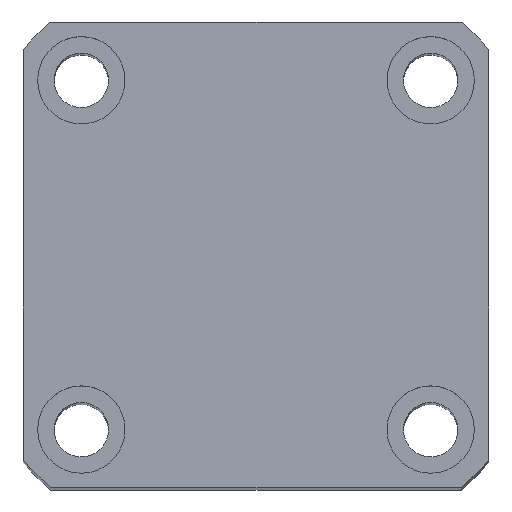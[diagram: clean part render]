
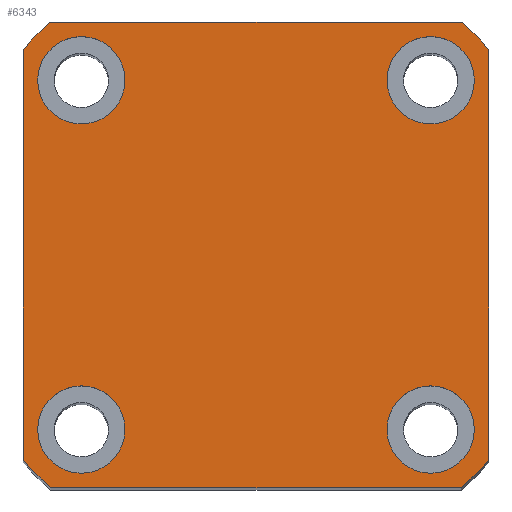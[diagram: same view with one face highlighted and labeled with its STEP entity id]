
A CAD part, top view. The second image highlights one B-rep face of the part: STEP entity #6343.
In plain terms, the highlighted planar face has unit normal (0, 0, 1) as drawn and (1, 0, 0) by its records, which use the part's own axes.
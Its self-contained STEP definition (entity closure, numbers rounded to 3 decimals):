
#12 = CIRCLE ( 'NONE', #5350, 32. ) ;
#145 = EDGE_CURVE ( 'NONE', #10652, #8997, #8116, .T. ) ;
#183 = CARTESIAN_POINT ( 'NONE',  ( 130., 18., 22.5 ) ) ;
#228 = EDGE_CURVE ( 'NONE', #6902, #4727, #1440, .T. ) ;
#279 = CIRCLE ( 'NONE', #7435, 4.5 ) ;
#466 = VERTEX_POINT ( 'NONE', #4667 ) ;
#733 = CIRCLE ( 'NONE', #4038, 32. ) ;
#925 = LINE ( 'NONE', #10651, #7317 ) ;
#1011 = EDGE_LOOP ( 'NONE', ( #10269, #1669 ) ) ;
#1014 = CARTESIAN_POINT ( 'NONE',  ( 130., -24., 21.166 ) ) ;
#1038 = DIRECTION ( 'NONE',  ( 1., 0., 0. ) ) ;
#1160 = EDGE_CURVE ( 'NONE', #3390, #8070, #279, .T. ) ;
#1359 = CARTESIAN_POINT ( 'NONE',  ( 130., 0., 0. ) ) ;
#1370 = CARTESIAN_POINT ( 'NONE',  ( 130., 0., 0. ) ) ;
#1405 = ORIENTED_EDGE ( 'NONE', *, *, #2734, .F. ) ;
#1440 = CIRCLE ( 'NONE', #5006, 4.5 ) ;
#1540 = CARTESIAN_POINT ( 'NONE',  ( 130., -18., -18. ) ) ;
#1626 = VERTEX_POINT ( 'NONE', #5099 ) ;
#1669 = ORIENTED_EDGE ( 'NONE', *, *, #1160, .F. ) ;
#1722 = CARTESIAN_POINT ( 'NONE',  ( 130., 18., -13.5 ) ) ;
#1911 = ORIENTED_EDGE ( 'NONE', *, *, #7385, .F. ) ;
#1925 = CARTESIAN_POINT ( 'NONE',  ( 130., -24., -21.166 ) ) ;
#2090 = DIRECTION ( 'NONE',  ( 0., 0., -1. ) ) ;
#2123 = DIRECTION ( 'NONE',  ( 1., 0., 0. ) ) ;
#2155 = DIRECTION ( 'NONE',  ( 0., 0., -1. ) ) ;
#2170 = DIRECTION ( 'NONE',  ( 1., 0., 0. ) ) ;
#2194 = CARTESIAN_POINT ( 'NONE',  ( 130., 0., 0. ) ) ;
#2325 = DIRECTION ( 'NONE',  ( 0., 0., -1. ) ) ;
#2346 = DIRECTION ( 'NONE',  ( 0., 0., 1. ) ) ;
#2399 = ORIENTED_EDGE ( 'NONE', *, *, #3510, .T. ) ;
#2609 = VERTEX_POINT ( 'NONE', #7933 ) ;
#2734 = EDGE_CURVE ( 'NONE', #3251, #466, #8640, .T. ) ;
#2746 = EDGE_CURVE ( 'NONE', #8997, #2609, #12, .T. ) ;
#2895 = DIRECTION ( 'NONE',  ( 0., -1., 0. ) ) ;
#3070 = VERTEX_POINT ( 'NONE', #10089 ) ;
#3147 = EDGE_CURVE ( 'NONE', #7903, #6799, #925, .T. ) ;
#3148 = EDGE_LOOP ( 'NONE', ( #7836, #10017 ) ) ;
#3251 = VERTEX_POINT ( 'NONE', #5145 ) ;
#3315 = FACE_BOUND ( 'NONE', #3148, .T. ) ;
#3390 = VERTEX_POINT ( 'NONE', #1722 ) ;
#3473 = DIRECTION ( 'NONE',  ( 1., 0., 0. ) ) ;
#3502 = CARTESIAN_POINT ( 'NONE',  ( 130., 18., -22.5 ) ) ;
#3510 = EDGE_CURVE ( 'NONE', #7762, #7903, #4010, .T. ) ;
#3633 = AXIS2_PLACEMENT_3D ( 'NONE', #1540, #7396, #2325 ) ;
#3662 = CARTESIAN_POINT ( 'NONE',  ( 130., 18., 13.5 ) ) ;
#3708 = DIRECTION ( 'NONE',  ( 0., 0., -1. ) ) ;
#3718 = CIRCLE ( 'NONE', #4974, 4.5 ) ;
#4010 = CIRCLE ( 'NONE', #4387, 32. ) ;
#4038 = AXIS2_PLACEMENT_3D ( 'NONE', #1359, #7203, #2155 ) ;
#4115 = DIRECTION ( 'NONE',  ( 1., 0., 0. ) ) ;
#4120 = FACE_BOUND ( 'NONE', #6337, .T. ) ;
#4191 = CARTESIAN_POINT ( 'NONE',  ( 130., -18., -18. ) ) ;
#4300 = EDGE_CURVE ( 'NONE', #7432, #3070, #9919, .T. ) ;
#4320 = CARTESIAN_POINT ( 'NONE',  ( 130., 24., -24. ) ) ;
#4332 = DIRECTION ( 'NONE',  ( 0., 1., 0. ) ) ;
#4387 = AXIS2_PLACEMENT_3D ( 'NONE', #2194, #2123, #2090 ) ;
#4389 = CIRCLE ( 'NONE', #3633, 4.5 ) ;
#4398 = ORIENTED_EDGE ( 'NONE', *, *, #7910, .T. ) ;
#4442 = DIRECTION ( 'NONE',  ( 1., 0., 0. ) ) ;
#4522 = VERTEX_POINT ( 'NONE', #10719 ) ;
#4529 = DIRECTION ( 'NONE',  ( 1., 0., 0. ) ) ;
#4641 = ORIENTED_EDGE ( 'NONE', *, *, #3147, .T. ) ;
#4667 = CARTESIAN_POINT ( 'NONE',  ( 130., -18., 22.5 ) ) ;
#4703 = CARTESIAN_POINT ( 'NONE',  ( 130., 18., 18. ) ) ;
#4709 = DIRECTION ( 'NONE',  ( 1., 0., 0. ) ) ;
#4722 = DIRECTION ( 'NONE',  ( 0., 0., -1. ) ) ;
#4727 = VERTEX_POINT ( 'NONE', #183 ) ;
#4974 = AXIS2_PLACEMENT_3D ( 'NONE', #9484, #4442, #10288 ) ;
#5006 = AXIS2_PLACEMENT_3D ( 'NONE', #4703, #4709, #4722 ) ;
#5016 = VECTOR ( 'NONE', #2895, 1000. ) ;
#5083 = CARTESIAN_POINT ( 'NONE',  ( 130., -21.166, -24. ) ) ;
#5099 = CARTESIAN_POINT ( 'NONE',  ( 130., 24., 21.166 ) ) ;
#5145 = CARTESIAN_POINT ( 'NONE',  ( 130., -18., 13.5 ) ) ;
#5301 = FACE_OUTER_BOUND ( 'NONE', #7821, .T. ) ;
#5350 = AXIS2_PLACEMENT_3D ( 'NONE', #8658, #8659, #8668 ) ;
#5404 = LINE ( 'NONE', #8289, #9621 ) ;
#5667 = CIRCLE ( 'NONE', #9661, 4.5 ) ;
#5731 = CARTESIAN_POINT ( 'NONE',  ( 130., -21.166, 24. ) ) ;
#5748 = AXIS2_PLACEMENT_3D ( 'NONE', #1370, #2170, #8072 ) ;
#5874 = VECTOR ( 'NONE', #4332, 1000. ) ;
#6020 = CARTESIAN_POINT ( 'NONE',  ( 130., 18., 18. ) ) ;
#6112 = ORIENTED_EDGE ( 'NONE', *, *, #228, .F. ) ;
#6337 = EDGE_LOOP ( 'NONE', ( #1405, #8085 ) ) ;
#6343 = ADVANCED_FACE ( 'NONE', ( #3315, #4120, #9765, #7563, #5301 ), #6358, .T. ) ;
#6357 = ORIENTED_EDGE ( 'NONE', *, *, #145, .T. ) ;
#6358 = PLANE ( 'NONE',  #5748 ) ;
#6783 = EDGE_CURVE ( 'NONE', #8070, #3390, #3718, .T. ) ;
#6799 = VERTEX_POINT ( 'NONE', #1925 ) ;
#6861 = DIRECTION ( 'NONE',  ( 0., 0., -1. ) ) ;
#6899 = ORIENTED_EDGE ( 'NONE', *, *, #9518, .T. ) ;
#6902 = VERTEX_POINT ( 'NONE', #3662 ) ;
#7125 = EDGE_CURVE ( 'NONE', #3070, #7432, #4389, .T. ) ;
#7203 = DIRECTION ( 'NONE',  ( 1., 0., 0. ) ) ;
#7272 = CIRCLE ( 'NONE', #10335, 4.5 ) ;
#7317 = VECTOR ( 'NONE', #10660, 1000. ) ;
#7385 = EDGE_CURVE ( 'NONE', #4727, #6902, #7272, .T. ) ;
#7396 = DIRECTION ( 'NONE',  ( 1., 0., 0. ) ) ;
#7432 = VERTEX_POINT ( 'NONE', #9389 ) ;
#7435 = AXIS2_PLACEMENT_3D ( 'NONE', #10691, #10721, #10723 ) ;
#7563 = FACE_BOUND ( 'NONE', #10535, .T. ) ;
#7599 = CARTESIAN_POINT ( 'NONE',  ( 130., 21.166, -24. ) ) ;
#7762 = VERTEX_POINT ( 'NONE', #5731 ) ;
#7821 = EDGE_LOOP ( 'NONE', ( #6357, #8617, #10779, #4398, #8855, #2399, #4641, #6899 ) ) ;
#7836 = ORIENTED_EDGE ( 'NONE', *, *, #4300, .F. ) ;
#7903 = VERTEX_POINT ( 'NONE', #1014 ) ;
#7910 = EDGE_CURVE ( 'NONE', #1626, #4522, #9998, .T. ) ;
#7933 = CARTESIAN_POINT ( 'NONE',  ( 130., 24., -21.166 ) ) ;
#8070 = VERTEX_POINT ( 'NONE', #3502 ) ;
#8072 = DIRECTION ( 'NONE',  ( 0., 0., -1. ) ) ;
#8085 = ORIENTED_EDGE ( 'NONE', *, *, #10748, .F. ) ;
#8116 = LINE ( 'NONE', #4320, #5874 ) ;
#8191 = AXIS2_PLACEMENT_3D ( 'NONE', #8627, #8628, #8638 ) ;
#8289 = CARTESIAN_POINT ( 'NONE',  ( 130., 24., 24. ) ) ;
#8510 = EDGE_CURVE ( 'NONE', #2609, #1626, #5404, .T. ) ;
#8545 = CARTESIAN_POINT ( 'NONE',  ( 130., 0., 0. ) ) ;
#8617 = ORIENTED_EDGE ( 'NONE', *, *, #2746, .T. ) ;
#8627 = CARTESIAN_POINT ( 'NONE',  ( 130., -18., 18. ) ) ;
#8628 = DIRECTION ( 'NONE',  ( 1., 0., 0. ) ) ;
#8638 = DIRECTION ( 'NONE',  ( 0., 0., -1. ) ) ;
#8640 = CIRCLE ( 'NONE', #8191, 4.5 ) ;
#8658 = CARTESIAN_POINT ( 'NONE',  ( 130., 0., 0. ) ) ;
#8659 = DIRECTION ( 'NONE',  ( 1., 0., 0. ) ) ;
#8668 = DIRECTION ( 'NONE',  ( 0., 0., -1. ) ) ;
#8798 = CARTESIAN_POINT ( 'NONE',  ( 130., 24., 24. ) ) ;
#8855 = ORIENTED_EDGE ( 'NONE', *, *, #10160, .T. ) ;
#8997 = VERTEX_POINT ( 'NONE', #7599 ) ;
#9369 = DIRECTION ( 'NONE',  ( 0., 0., -1. ) ) ;
#9389 = CARTESIAN_POINT ( 'NONE',  ( 130., -18., -22.5 ) ) ;
#9484 = CARTESIAN_POINT ( 'NONE',  ( 130., 18., -18. ) ) ;
#9497 = LINE ( 'NONE', #8798, #5016 ) ;
#9518 = EDGE_CURVE ( 'NONE', #6799, #10652, #733, .T. ) ;
#9572 = CARTESIAN_POINT ( 'NONE',  ( 130., -18., 18. ) ) ;
#9621 = VECTOR ( 'NONE', #2346, 1000. ) ;
#9661 = AXIS2_PLACEMENT_3D ( 'NONE', #9572, #4529, #10376 ) ;
#9765 = FACE_BOUND ( 'NONE', #1011, .T. ) ;
#9919 = CIRCLE ( 'NONE', #10334, 4.5 ) ;
#9933 = AXIS2_PLACEMENT_3D ( 'NONE', #8545, #3473, #9369 ) ;
#9998 = CIRCLE ( 'NONE', #9933, 32. ) ;
#10017 = ORIENTED_EDGE ( 'NONE', *, *, #7125, .F. ) ;
#10089 = CARTESIAN_POINT ( 'NONE',  ( 130., -18., -13.5 ) ) ;
#10160 = EDGE_CURVE ( 'NONE', #4522, #7762, #9497, .T. ) ;
#10269 = ORIENTED_EDGE ( 'NONE', *, *, #6783, .F. ) ;
#10288 = DIRECTION ( 'NONE',  ( 0., 0., -1. ) ) ;
#10334 = AXIS2_PLACEMENT_3D ( 'NONE', #4191, #4115, #3708 ) ;
#10335 = AXIS2_PLACEMENT_3D ( 'NONE', #6020, #1038, #6861 ) ;
#10376 = DIRECTION ( 'NONE',  ( 0., 0., -1. ) ) ;
#10535 = EDGE_LOOP ( 'NONE', ( #6112, #1911 ) ) ;
#10651 = CARTESIAN_POINT ( 'NONE',  ( 130., -24., 24. ) ) ;
#10652 = VERTEX_POINT ( 'NONE', #5083 ) ;
#10660 = DIRECTION ( 'NONE',  ( 0., 0., -1. ) ) ;
#10691 = CARTESIAN_POINT ( 'NONE',  ( 130., 18., -18. ) ) ;
#10719 = CARTESIAN_POINT ( 'NONE',  ( 130., 21.166, 24. ) ) ;
#10721 = DIRECTION ( 'NONE',  ( 1., 0., 0. ) ) ;
#10723 = DIRECTION ( 'NONE',  ( 0., 0., -1. ) ) ;
#10748 = EDGE_CURVE ( 'NONE', #466, #3251, #5667, .T. ) ;
#10779 = ORIENTED_EDGE ( 'NONE', *, *, #8510, .T. ) ;
